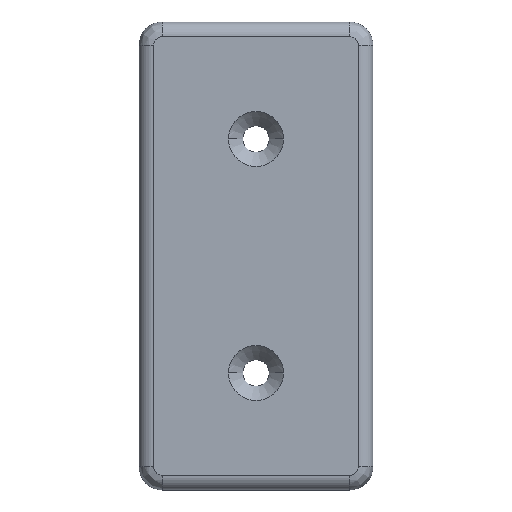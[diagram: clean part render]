
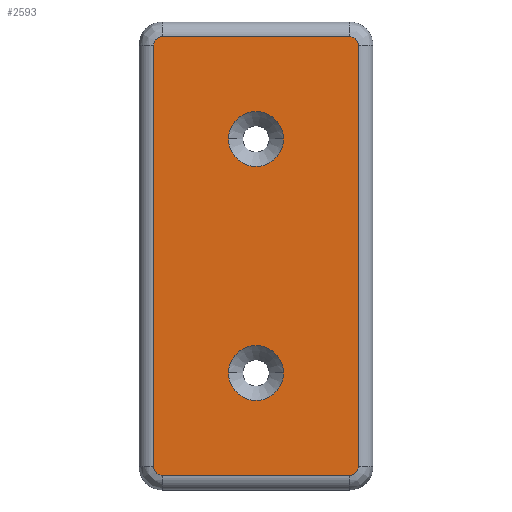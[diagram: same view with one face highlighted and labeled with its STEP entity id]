
A CAD part, top view. The second image highlights one B-rep face of the part: STEP entity #2593.
In plain terms, the highlighted planar face has unit normal (0, 0, 1).
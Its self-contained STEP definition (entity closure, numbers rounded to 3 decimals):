
#17 = CIRCLE ( 'NONE', #2538, 4.7 ) ;
#29 = FACE_BOUND ( 'NONE', #1653, .T. ) ;
#101 = ORIENTED_EDGE ( 'NONE', *, *, #3803, .F. ) ;
#120 = CARTESIAN_POINT ( 'NONE',  ( 4.7, -20., 4. ) ) ;
#136 = VERTEX_POINT ( 'NONE', #3783 ) ;
#158 = CARTESIAN_POINT ( 'NONE',  ( -17.5, -36., 4. ) ) ;
#226 = ORIENTED_EDGE ( 'NONE', *, *, #2245, .F. ) ;
#336 = CARTESIAN_POINT ( 'NONE',  ( 16.879, -37.5, 4. ) ) ;
#343 = EDGE_CURVE ( 'NONE', #3455, #742, #2202, .T. ) ;
#351 =( BOUNDED_CURVE ( )  B_SPLINE_CURVE ( 3, ( #825, #3831, #485, #158 ),
 .UNSPECIFIED., .F., .F. ) 
 B_SPLINE_CURVE_WITH_KNOTS ( ( 4, 4 ),
 ( 0., 1. ),
 .UNSPECIFIED. ) 
 CURVE ( )  GEOMETRIC_REPRESENTATION_ITEM ( )  RATIONAL_B_SPLINE_CURVE ( ( 1., 0.805, 0.805, 1. ) ) 
 REPRESENTATION_ITEM ( '' )  );
#417 = CARTESIAN_POINT ( 'NONE',  ( -16., 37.5, 4. ) ) ;
#425 = VERTEX_POINT ( 'NONE', #2022 ) ;
#485 = CARTESIAN_POINT ( 'NONE',  ( -17.5, -36.879, 4. ) ) ;
#513 = CARTESIAN_POINT ( 'NONE',  ( -16., 37.5, 4. ) ) ;
#535 = CARTESIAN_POINT ( 'NONE',  ( -17.5, 36., 4. ) ) ;
#566 = EDGE_CURVE ( 'NONE', #3875, #3744, #1422, .T. ) ;
#639 = CARTESIAN_POINT ( 'NONE',  ( -16., -37.5, 4. ) ) ;
#654 = CARTESIAN_POINT ( 'NONE',  ( 0., -20., 4. ) ) ;
#724 = DIRECTION ( 'NONE',  ( 1., 0., 0. ) ) ;
#742 = VERTEX_POINT ( 'NONE', #2364 ) ;
#775 = EDGE_CURVE ( 'NONE', #2597, #3875, #2003, .T. ) ;
#787 = LINE ( 'NONE', #2183, #3146 ) ;
#825 = CARTESIAN_POINT ( 'NONE',  ( -16., -37.5, 4. ) ) ;
#870 = EDGE_CURVE ( 'NONE', #3426, #3904, #2923, .T. ) ;
#980 = ORIENTED_EDGE ( 'NONE', *, *, #775, .F. ) ;
#983 = DIRECTION ( 'NONE',  ( 0., 0., 1. ) ) ;
#1019 = ORIENTED_EDGE ( 'NONE', *, *, #2782, .F. ) ;
#1032 = VECTOR ( 'NONE', #724, 1000. ) ;
#1117 = EDGE_CURVE ( 'NONE', #3349, #2597, #351, .T. ) ;
#1173 = AXIS2_PLACEMENT_3D ( 'NONE', #4083, #3457, #3478 ) ;
#1222 = CARTESIAN_POINT ( 'NONE',  ( 17.5, 36.879, 4. ) ) ;
#1270 = ORIENTED_EDGE ( 'NONE', *, *, #343, .F. ) ;
#1319 = ORIENTED_EDGE ( 'NONE', *, *, #1414, .F. ) ;
#1321 = VECTOR ( 'NONE', #1510, 1000. ) ;
#1408 = PLANE ( 'NONE',  #1173 ) ;
#1414 = EDGE_CURVE ( 'NONE', #425, #2753, #1860, .T. ) ;
#1422 =( BOUNDED_CURVE ( )  B_SPLINE_CURVE ( 3, ( #535, #1600, #3276, #513 ),
 .UNSPECIFIED., .F., .F. ) 
 B_SPLINE_CURVE_WITH_KNOTS ( ( 4, 4 ),
 ( 0., 1. ),
 .UNSPECIFIED. ) 
 CURVE ( )  GEOMETRIC_REPRESENTATION_ITEM ( )  RATIONAL_B_SPLINE_CURVE ( ( 1., 0.805, 0.805, 1. ) ) 
 REPRESENTATION_ITEM ( '' )  );
#1480 = AXIS2_PLACEMENT_3D ( 'NONE', #3541, #2875, #3517 ) ;
#1510 = DIRECTION ( 'NONE',  ( 0., -1., 0. ) ) ;
#1525 = EDGE_LOOP ( 'NONE', ( #1019, #1270, #1564, #4396, #980, #1657, #3922, #1994 ) ) ;
#1557 = CARTESIAN_POINT ( 'NONE',  ( 16., 37.5, 4. ) ) ;
#1564 = ORIENTED_EDGE ( 'NONE', *, *, #3880, .F. ) ;
#1600 = CARTESIAN_POINT ( 'NONE',  ( -17.5, 36.879, 4. ) ) ;
#1653 = EDGE_LOOP ( 'NONE', ( #226, #4411 ) ) ;
#1657 = ORIENTED_EDGE ( 'NONE', *, *, #1117, .F. ) ;
#1682 = VECTOR ( 'NONE', #4349, 1000. ) ;
#1684 = DIRECTION ( 'NONE',  ( 0., 0., 1. ) ) ;
#1710 = LINE ( 'NONE', #2754, #1032 ) ;
#1768 = CIRCLE ( 'NONE', #2687, 4.7 ) ;
#1813 = CARTESIAN_POINT ( 'NONE',  ( 17.5, 36., 4. ) ) ;
#1836 = CARTESIAN_POINT ( 'NONE',  ( 17.5, 36., 4. ) ) ;
#1848 = CARTESIAN_POINT ( 'NONE',  ( 16., 37.5, 4. ) ) ;
#1860 = CIRCLE ( 'NONE', #2085, 4.7 ) ;
#1992 = EDGE_CURVE ( 'NONE', #3904, #3349, #787, .T. ) ;
#1994 = ORIENTED_EDGE ( 'NONE', *, *, #870, .F. ) ;
#2003 = LINE ( 'NONE', #4425, #1682 ) ;
#2022 = CARTESIAN_POINT ( 'NONE',  ( -4.7, -20., 4. ) ) ;
#2085 = AXIS2_PLACEMENT_3D ( 'NONE', #2882, #3573, #4244 ) ;
#2183 = CARTESIAN_POINT ( 'NONE',  ( 16., -37.5, 4. ) ) ;
#2202 =( BOUNDED_CURVE ( )  B_SPLINE_CURVE ( 3, ( #1557, #3853, #1222, #1836 ),
 .UNSPECIFIED., .F., .T. ) 
 B_SPLINE_CURVE_WITH_KNOTS ( ( 4, 4 ),
 ( 0., 1. ),
 .UNSPECIFIED. ) 
 CURVE ( )  GEOMETRIC_REPRESENTATION_ITEM ( )  RATIONAL_B_SPLINE_CURVE ( ( 1., 0.805, 0.805, 1. ) ) 
 REPRESENTATION_ITEM ( '' )  );
#2234 = CARTESIAN_POINT ( 'NONE',  ( 17.5, -36., 4. ) ) ;
#2245 = EDGE_CURVE ( 'NONE', #2366, #136, #17, .T. ) ;
#2364 = CARTESIAN_POINT ( 'NONE',  ( 17.5, 36., 4. ) ) ;
#2366 = VERTEX_POINT ( 'NONE', #3428 ) ;
#2397 = CARTESIAN_POINT ( 'NONE',  ( 16., -37.5, 4. ) ) ;
#2405 = CARTESIAN_POINT ( 'NONE',  ( -17.5, -36., 4. ) ) ;
#2538 = AXIS2_PLACEMENT_3D ( 'NONE', #4050, #983, #3080 ) ;
#2593 = ADVANCED_FACE ( 'NONE', ( #29, #4423, #3832 ), #1408, .T. ) ;
#2597 = VERTEX_POINT ( 'NONE', #2405 ) ;
#2687 = AXIS2_PLACEMENT_3D ( 'NONE', #654, #1684, #4018 ) ;
#2753 = VERTEX_POINT ( 'NONE', #120 ) ;
#2754 = CARTESIAN_POINT ( 'NONE',  ( -16., 37.5, 4. ) ) ;
#2779 = CARTESIAN_POINT ( 'NONE',  ( 17.5, -36., 4. ) ) ;
#2782 = EDGE_CURVE ( 'NONE', #742, #3426, #2851, .T. ) ;
#2851 = LINE ( 'NONE', #1813, #1321 ) ;
#2875 = DIRECTION ( 'NONE',  ( 0., 0., 1. ) ) ;
#2882 = CARTESIAN_POINT ( 'NONE',  ( 0., -20., 4. ) ) ;
#2923 =( BOUNDED_CURVE ( )  B_SPLINE_CURVE ( 3, ( #2779, #3410, #336, #2397 ),
 .UNSPECIFIED., .F., .F. ) 
 B_SPLINE_CURVE_WITH_KNOTS ( ( 4, 4 ),
 ( 0., 1. ),
 .UNSPECIFIED. ) 
 CURVE ( )  GEOMETRIC_REPRESENTATION_ITEM ( )  RATIONAL_B_SPLINE_CURVE ( ( 1., 0.805, 0.805, 1. ) ) 
 REPRESENTATION_ITEM ( '' )  );
#2950 = EDGE_LOOP ( 'NONE', ( #101, #1319 ) ) ;
#3080 = DIRECTION ( 'NONE',  ( 1., 0., 0. ) ) ;
#3102 = CARTESIAN_POINT ( 'NONE',  ( 16., -37.5, 4. ) ) ;
#3146 = VECTOR ( 'NONE', #3546, 1000. ) ;
#3276 = CARTESIAN_POINT ( 'NONE',  ( -16.879, 37.5, 4. ) ) ;
#3329 = CIRCLE ( 'NONE', #1480, 4.7 ) ;
#3349 = VERTEX_POINT ( 'NONE', #639 ) ;
#3402 = CARTESIAN_POINT ( 'NONE',  ( -17.5, 36., 4. ) ) ;
#3410 = CARTESIAN_POINT ( 'NONE',  ( 17.5, -36.879, 4. ) ) ;
#3426 = VERTEX_POINT ( 'NONE', #2234 ) ;
#3428 = CARTESIAN_POINT ( 'NONE',  ( 4.7, 20., 4. ) ) ;
#3455 = VERTEX_POINT ( 'NONE', #1848 ) ;
#3457 = DIRECTION ( 'NONE',  ( 0., 0., 1. ) ) ;
#3478 = DIRECTION ( 'NONE',  ( 0., -1., 0. ) ) ;
#3517 = DIRECTION ( 'NONE',  ( 1., 0., 0. ) ) ;
#3541 = CARTESIAN_POINT ( 'NONE',  ( 0., 20., 4. ) ) ;
#3546 = DIRECTION ( 'NONE',  ( -1., 0., 0. ) ) ;
#3573 = DIRECTION ( 'NONE',  ( 0., 0., 1. ) ) ;
#3744 = VERTEX_POINT ( 'NONE', #417 ) ;
#3783 = CARTESIAN_POINT ( 'NONE',  ( -4.7, 20., 4. ) ) ;
#3803 = EDGE_CURVE ( 'NONE', #2753, #425, #1768, .T. ) ;
#3831 = CARTESIAN_POINT ( 'NONE',  ( -16.879, -37.5, 4. ) ) ;
#3832 = FACE_OUTER_BOUND ( 'NONE', #1525, .T. ) ;
#3853 = CARTESIAN_POINT ( 'NONE',  ( 16.879, 37.5, 4. ) ) ;
#3875 = VERTEX_POINT ( 'NONE', #3402 ) ;
#3880 = EDGE_CURVE ( 'NONE', #3744, #3455, #1710, .T. ) ;
#3904 = VERTEX_POINT ( 'NONE', #3102 ) ;
#3922 = ORIENTED_EDGE ( 'NONE', *, *, #1992, .F. ) ;
#4018 = DIRECTION ( 'NONE',  ( 1., 0., 0. ) ) ;
#4050 = CARTESIAN_POINT ( 'NONE',  ( 0., 20., 4. ) ) ;
#4083 = CARTESIAN_POINT ( 'NONE',  ( 16., 36.75, 4. ) ) ;
#4244 = DIRECTION ( 'NONE',  ( 1., 0., 0. ) ) ;
#4349 = DIRECTION ( 'NONE',  ( 0., 1., 0. ) ) ;
#4396 = ORIENTED_EDGE ( 'NONE', *, *, #566, .F. ) ;
#4411 = ORIENTED_EDGE ( 'NONE', *, *, #4416, .F. ) ;
#4416 = EDGE_CURVE ( 'NONE', #136, #2366, #3329, .T. ) ;
#4423 = FACE_BOUND ( 'NONE', #2950, .T. ) ;
#4425 = CARTESIAN_POINT ( 'NONE',  ( -17.5, -36., 4. ) ) ;
